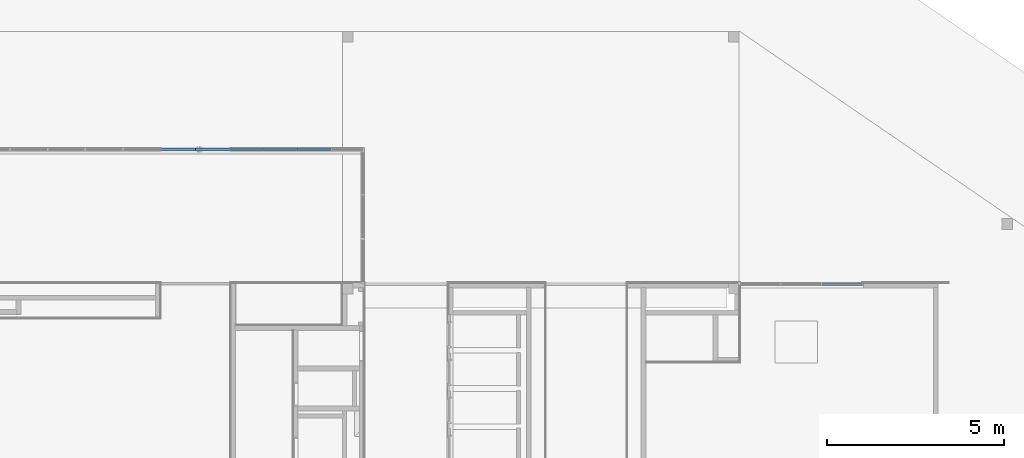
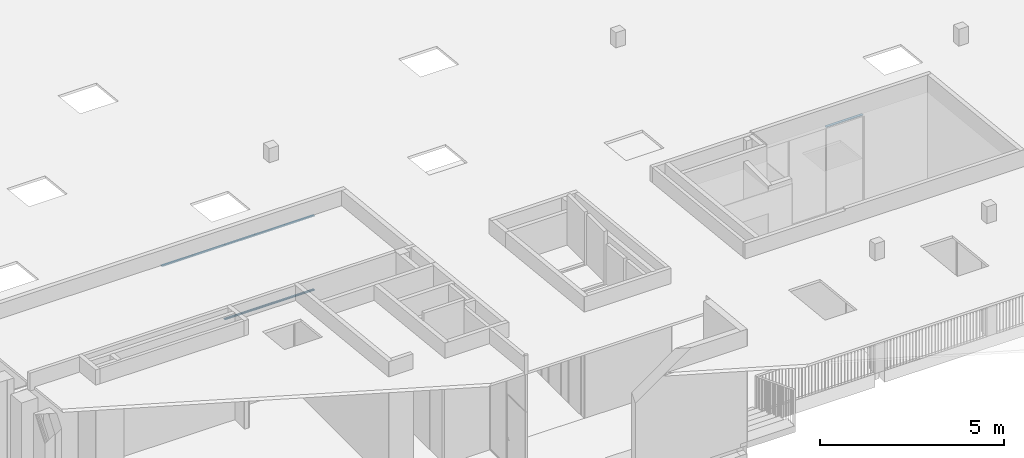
# One storey, part 6 of 43: 9 members, 2 elements without a shape of their own.
"""IFC2X3 building model written with IfcOpenShell, lengths in millimetres."""

from ifc_helpers import new_model, entity, si_unit, converted_unit, derived_unit, money_unit, direction, frame, origin_with_axes, place, context, subcontext, project, spatial, faceted_brep, source, transform, mapped, material, material_list, type_object, element, aggregate, save


model = new_model("IFC2X3")

# Units and contexts
model_context = context("Model", 3, precision=0.01, world=origin_with_axes(), true_north=direction((0.0, 1.0)))
body_context = subcontext(model_context, "Body", "Model", "MODEL_VIEW")
ifc_project = project(units=[si_unit("LENGTHUNIT", "METRE", prefix="MILLI"), si_unit("AREAUNIT", "SQUARE_METRE"), si_unit("VOLUMEUNIT", "CUBIC_METRE"), converted_unit("PLANEANGLEUNIT", "DEGREE", entity("IfcPlaneAngleMeasure", 0.0174532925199), si_unit("PLANEANGLEUNIT", "RADIAN"), dimensions=[0, 0, 0, 0, 0, 0, 0]), si_unit("SOLIDANGLEUNIT", "STERADIAN"), money_unit("EUR"), converted_unit("TIMEUNIT", "Year", entity("IfcTimeMeasure", 31556926.0), si_unit("TIMEUNIT", "SECOND"), dimensions=[0, 0, 1, 0, 0, 0, 0]), si_unit("MASSUNIT", "GRAM", prefix="KILO"), si_unit("THERMODYNAMICTEMPERATUREUNIT", "DEGREE_CELSIUS"), si_unit("LUMINOUSINTENSITYUNIT", "LUMEN"), si_unit("ENERGYUNIT", "JOULE", prefix="MEGA"), derived_unit("THERMALCONDUCTANCEUNIT", [(si_unit("POWERUNIT", "WATT"), 1), (si_unit("LENGTHUNIT", "METRE"), -1), (si_unit("THERMODYNAMICTEMPERATUREUNIT", "KELVIN"), -1)]), derived_unit("SPECIFICHEATCAPACITYUNIT", [(si_unit("ENERGYUNIT", "JOULE"), 1), (si_unit("MASSUNIT", "GRAM", prefix="KILO"), -1), (si_unit("THERMODYNAMICTEMPERATUREUNIT", "KELVIN"), -1)]), derived_unit("MASSDENSITYUNIT", [(si_unit("MASSUNIT", "GRAM", prefix="KILO"), 1), (si_unit("VOLUMEUNIT", "CUBIC_METRE"), -1)])], contexts=[model_context])

# Site, building, storey
site_placement = place(None, origin_with_axes())
site = spatial("IfcSite", under=ifc_project, at=site_placement, Name="L.Koidula tn 11b", CompositionType="ELEMENT")
building_placement = place(site_placement, origin_with_axes())
building = spatial("IfcBuilding", under=site, at=building_placement, Name="Rakvere Riigigümnaasium", CompositionType="ELEMENT")
storey_placement = place(building_placement, frame((0.0, 0.0, 6665.0), z_axis=(0.0, 0.0, 1.0), x_axis=(1.0, 0.0, 0.0)))
storey = spatial("IfcBuildingStorey", under=building, at=storey_placement, Name="3.korrus +6,66", CompositionType="ELEMENT", Elevation=6665.0)

# Curtain wall, members
curtain_wall_type = type_object("IfcCurtainWallType", Name="Curtain Wall Type", PredefinedType="NOTDEFINED")
curtain_wall_1_placement = place(storey_placement, frame((45254.9999955, 28178.4554945, 0.0), z_axis=(0.0, 0.0, 1.0), x_axis=(1.0, 0.0, 0.0)))
curtain_wall_1 = element("IfcCurtainWall", 1, at=curtain_wall_1_placement, inside=storey, type_object=curtain_wall_type, Name="SKLF-26")
ifc_material_1 = material(Name="Klaasvill")
ifc_material_2 = material(Name="Teras RAL7012")
ifc_material_list = material_list([ifc_material_1, ifc_material_2])
member_type = type_object("IfcMemberType", Name="Boundary Frame 30 x 42", PredefinedType="MULLION")
shared_shape_1 = source(origin_with_axes(), body_context, "Body", "Brep", [
    faceted_brep([(7.49999990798, 15.000000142, 0.0), (13.8499999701, 15.000000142, 0.0), (13.8499999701, 15.000000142, 942.0), (7.49999990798, 15.000000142, 942.0), (7.49999990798, 29.0161444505, 0.0), (13.8499999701, 29.0161444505, 0.0), (13.8499999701, 29.0161444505, 942.0), (7.49999990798, 29.0161444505, 942.0)], [[[0, 1, 2, 3]], [[0, 4, 5, 1]], [[1, 5, 6, 2]], [[3, 2, 6, 7]], [[4, 0, 3, 7]], [[5, 4, 7, 6]]]),
    faceted_brep([(24.987414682, 29.0161444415, 0.0), (25.004489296, 27.0307503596, 0.0), (25.004489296, 27.0307503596, 942.0), (24.987414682, 29.0161444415, 942.0), (28.5126239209, 29.0161444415, 0.0), (28.7655837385, 28.0385325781, 0.0), (28.4955493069, 27.0307503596, 0.0), (27.75780152, 26.2930025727, 0.0), (26.7500193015, 26.0229681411, 0.0), (25.742237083, 26.2930025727, 0.0), (25.742237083, 26.2930025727, 942.0), (26.7500193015, 26.0229681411, 942.0), (27.75780152, 26.2930025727, 942.0), (28.4955493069, 27.0307503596, 942.0), (28.7655837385, 28.0385325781, 942.0), (28.5126239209, 29.0161444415, 942.0)], [[[0, 1, 2, 3]], [[0, 4, 5, 6, 7, 8, 9, 1]], [[1, 9, 10, 2]], [[3, 2, 10, 11, 12, 13, 14, 15]], [[4, 0, 3, 15]], [[5, 4, 15, 14]], [[6, 5, 14, 13]], [[7, 6, 13, 12]], [[8, 7, 12, 11]], [[9, 8, 11, 10]]]),
    faceted_brep([(7.49999990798, -24.9999997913, 0.0), (7.49999990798, -39.0161445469, 0.0), (7.49999990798, -39.0161445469, 942.0), (7.49999990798, -24.9999997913, 942.0), (13.8499999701, -24.9999997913, 0.0), (13.8499999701, -39.0161445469, 0.0), (13.8499999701, -39.0161445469, 942.0), (13.8499999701, -24.9999997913, 942.0)], [[[0, 1, 2, 3]], [[0, 4, 5, 1]], [[1, 5, 6, 2]], [[3, 2, 6, 7]], [[4, 0, 3, 7]], [[5, 4, 7, 6]]]),
    faceted_brep([(25.004489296, -37.0307503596, 0.0), (24.987414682, -39.0161444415, 0.0), (24.987414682, -39.0161444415, 942.0), (25.004489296, -37.0307503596, 942.0), (25.742237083, -36.2930025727, 0.0), (26.7500193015, -36.0229681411, 0.0), (27.75780152, -36.2930025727, 0.0), (28.4955493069, -37.0307503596, 0.0), (28.7655837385, -38.0385325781, 0.0), (28.5126239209, -39.0161444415, 0.0), (28.5126239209, -39.0161444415, 942.0), (28.7655837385, -38.0385325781, 942.0), (28.4955493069, -37.0307503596, 942.0), (27.75780152, -36.2930025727, 942.0), (26.7500193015, -36.0229681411, 942.0), (25.742237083, -36.2930025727, 942.0)], [[[0, 1, 2, 3]], [[0, 4, 5, 6, 7, 8, 9, 1]], [[1, 9, 10, 2]], [[3, 2, 10, 11, 12, 13, 14, 15]], [[4, 0, 3, 15]], [[5, 4, 15, 14]], [[6, 5, 14, 13]], [[7, 6, 13, 12]], [[8, 7, 12, 11]], [[9, 8, 11, 10]]]),
    faceted_brep([(0.0, -22.0000000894, 0.0), (29.5999996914, -22.0000000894, 0.0), (29.5999996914, -22.0000000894, 942.0), (0.0, -22.0000000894, 942.0), (0.0, 12.0000000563, 0.0), (29.5999996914, 12.0000000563, 0.0), (1.9999999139, 10.0000001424, 0.0), (1.9999999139, -20.0000001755, 0.0), (18.7999996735, -20.0000001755, 0.0), (18.7999996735, 10.0000001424, 0.0), (29.5999996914, 12.0000000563, 942.0), (0.0, 12.0000000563, 942.0), (1.9999999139, 10.0000001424, 942.0), (18.7999996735, 10.0000001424, 942.0), (18.7999996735, -20.0000001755, 942.0), (1.9999999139, -20.0000001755, 942.0)], [[[0, 1, 2, 3]], [[0, 4, 5, 1], [6, 7, 8, 9]], [[1, 5, 10, 2]], [[3, 2, 10, 11], [12, 13, 14, 15]], [[4, 0, 3, 11]], [[5, 4, 11, 10]], [[7, 6, 12, 15]], [[8, 7, 15, 14]], [[9, 8, 14, 13]], [[6, 9, 13, 12]]]),
    faceted_brep([(0.0, 12.0, 0.0), (29.5999996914, 12.0000000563, 0.0), (29.5999996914, 12.0000000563, 942.0), (0.0, 12.0, 942.0), (0.0, 32.0, 0.0), (30.0000193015, 32.0, 0.0), (30.0000193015, 29.0161444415, 0.0), (28.5126239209, 29.0161444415, 0.0), (24.987414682, 29.0161444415, 0.0), (13.8499999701, 29.0161444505, 0.0), (7.49999999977, 29.0161444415, 0.0), (7.49999999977, 15.0, 0.0), (13.8499999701, 15.000000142, 0.0), (30.0000193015, 15.0, 0.0), (30.0000193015, 12.0, 0.0), (30.0000193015, 12.0, 942.0), (30.0000193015, 15.0, 942.0), (13.8499999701, 15.000000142, 942.0), (7.49999999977, 15.0, 942.0), (7.49999999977, 29.0161444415, 942.0), (13.8499999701, 29.0161444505, 942.0), (24.987414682, 29.0161444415, 942.0), (28.5126239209, 29.0161444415, 942.0), (30.0000193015, 29.0161444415, 942.0), (30.0000193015, 32.0, 942.0), (0.0, 32.0, 942.0)], [[[0, 1, 2, 3]], [[0, 4, 5, 6, 7, 8, 9, 10, 11, 12, 13, 14, 1]], [[1, 14, 15, 2]], [[3, 2, 15, 16, 17, 18, 19, 20, 21, 22, 23, 24, 25]], [[4, 0, 3, 25]], [[5, 4, 25, 24]], [[6, 5, 24, 23]], [[7, 6, 23, 22]], [[8, 7, 22, 21]], [[9, 8, 21, 20]], [[10, 9, 20, 19]], [[11, 10, 19, 18]], [[12, 11, 18, 17]], [[13, 12, 17, 16]], [[14, 13, 16, 15]]]),
    faceted_brep([(0.0, -22.0, 0.0), (0.0, -42.0, 0.0), (0.0, -42.0, 942.0), (0.0, -22.0, 942.0), (29.5999996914, -22.0000000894, 0.0), (30.0000193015, -22.0, 0.0), (30.0000193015, -25.0, 0.0), (13.8499999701, -24.9999997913, 0.0), (7.49999999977, -25.0, 0.0), (7.49999999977, -39.0161444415, 0.0), (13.8499999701, -39.0161445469, 0.0), (24.987414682, -39.0161444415, 0.0), (28.5126239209, -39.0161444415, 0.0), (30.0000193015, -39.0161444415, 0.0), (30.0000193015, -42.0, 0.0), (30.0000193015, -42.0, 942.0), (30.0000193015, -39.0161444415, 942.0), (28.5126239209, -39.0161444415, 942.0), (24.987414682, -39.0161444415, 942.0), (13.8499999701, -39.0161445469, 942.0), (7.49999999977, -39.0161444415, 942.0), (7.49999999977, -25.0, 942.0), (13.8499999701, -24.9999997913, 942.0), (30.0000193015, -25.0, 942.0), (30.0000193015, -22.0, 942.0), (29.5999996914, -22.0000000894, 942.0)], [[[0, 1, 2, 3]], [[0, 4, 5, 6, 7, 8, 9, 10, 11, 12, 13, 14, 1]], [[1, 14, 15, 2]], [[3, 2, 15, 16, 17, 18, 19, 20, 21, 22, 23, 24, 25]], [[4, 0, 3, 25]], [[5, 4, 25, 24]], [[6, 5, 24, 23]], [[7, 6, 23, 22]], [[8, 7, 22, 21]], [[9, 8, 21, 20]], [[10, 9, 20, 19]], [[11, 10, 19, 18]], [[12, 11, 18, 17]], [[13, 12, 17, 16]], [[14, 13, 16, 15]]]),
])
member_1_placement = place(curtain_wall_1_placement, frame((1413.0, 0.0, 0.0), z_axis=(-1.0, 0.0, 0.0), x_axis=(0.0, 0.0, 1.0)))
member_1 = element("IfcMember", 2, at=member_1_placement, type_object=member_type, material=ifc_material_list, Name="SKLF-12-raam", ObjectType="MULLION", context=body_context, shape_type="MappedRepresentation", body=[
    mapped(shared_shape_1, transform((0.0, 0.0, 0.0))),
])
member_2_placement = place(curtain_wall_1_placement, frame((471.0, 0.0, 0.0), z_axis=(-1.0, 0.0, 0.0), x_axis=(0.0, 0.0, 1.0)))
member_2 = element("IfcMember", 3, at=member_2_placement, type_object=member_type, material=ifc_material_list, Name="SKLF-13-raam", ObjectType="MULLION", context=body_context, shape_type="MappedRepresentation", body=[
    mapped(shared_shape_1, transform((0.0, 0.0, 0.0))),
])
member_3_placement = place(curtain_wall_1_placement, frame((-471.0, 0.0, 0.0), z_axis=(-1.0, 0.0, 0.0), x_axis=(0.0, 0.0, 1.0)))
member_3 = element("IfcMember", 4, at=member_3_placement, type_object=member_type, material=ifc_material_list, Name="SKLF-14-raam", ObjectType="MULLION", context=body_context, shape_type="MappedRepresentation", body=[
    mapped(shared_shape_1, transform((0.0, 0.0, 0.0))),
])
member_4_placement = place(curtain_wall_1_placement, frame((471.0, 0.0, 2489.99984217), z_axis=(1.0, 0.0, 0.0), x_axis=(0.0, 0.0, -1.0)))
member_4 = element("IfcMember", 5, at=member_4_placement, type_object=member_type, material=ifc_material_list, Name="SKLF-34-raam", ObjectType="MULLION", context=body_context, shape_type="MappedRepresentation", body=[
    mapped(shared_shape_1, transform((0.0, 0.0, 0.0))),
])
member_5_placement = place(curtain_wall_1_placement, frame((-471.0, 0.0, 2489.99984217), z_axis=(1.0, 0.0, 0.0), x_axis=(0.0, 0.0, -1.0)))
member_5 = element("IfcMember", 6, at=member_5_placement, type_object=member_type, material=ifc_material_list, Name="SKLF-33-raam", ObjectType="MULLION", context=body_context, shape_type="MappedRepresentation", body=[
    mapped(shared_shape_1, transform((0.0, 0.0, 0.0))),
])
member_6_placement = place(curtain_wall_1_placement, frame((-1413.0, 0.0, 2489.99984217), z_axis=(1.0, 0.0, 0.0), x_axis=(0.0, 0.0, -1.0)))
member_6 = element("IfcMember", 7, at=member_6_placement, type_object=member_type, material=ifc_material_list, Name="SKLF-32-raam", ObjectType="MULLION", context=body_context, shape_type="MappedRepresentation", body=[
    mapped(shared_shape_1, transform((0.0, 0.0, 0.0))),
])
shared_shape_2 = source(origin_with_axes(), body_context, "Body", "Brep", [
    faceted_brep([(7.49999990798, 15.000000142, 0.0), (13.8499999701, 15.000000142, 0.0), (13.8499999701, 15.000000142, 988.0), (7.49999990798, 15.000000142, 988.0), (7.49999990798, 29.0161444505, 0.0), (13.8499999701, 29.0161444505, 0.0), (13.8499999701, 29.0161444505, 988.0), (7.49999990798, 29.0161444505, 988.0)], [[[0, 1, 2, 3]], [[0, 4, 5, 1]], [[1, 5, 6, 2]], [[3, 2, 6, 7]], [[4, 0, 3, 7]], [[5, 4, 7, 6]]]),
    faceted_brep([(24.987414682, 29.0161444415, 0.0), (25.004489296, 27.0307503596, 0.0), (25.004489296, 27.0307503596, 988.0), (24.987414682, 29.0161444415, 988.0), (28.5126239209, 29.0161444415, 0.0), (28.7655837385, 28.0385325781, 0.0), (28.4955493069, 27.0307503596, 0.0), (27.75780152, 26.2930025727, 0.0), (26.7500193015, 26.0229681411, 0.0), (25.742237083, 26.2930025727, 0.0), (25.742237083, 26.2930025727, 988.0), (26.7500193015, 26.0229681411, 988.0), (27.75780152, 26.2930025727, 988.0), (28.4955493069, 27.0307503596, 988.0), (28.7655837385, 28.0385325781, 988.0), (28.5126239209, 29.0161444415, 988.0)], [[[0, 1, 2, 3]], [[0, 4, 5, 6, 7, 8, 9, 1]], [[1, 9, 10, 2]], [[3, 2, 10, 11, 12, 13, 14, 15]], [[4, 0, 3, 15]], [[5, 4, 15, 14]], [[6, 5, 14, 13]], [[7, 6, 13, 12]], [[8, 7, 12, 11]], [[9, 8, 11, 10]]]),
    faceted_brep([(7.49999990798, -24.9999997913, 0.0), (7.49999990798, -39.0161445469, 0.0), (7.49999990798, -39.0161445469, 988.0), (7.49999990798, -24.9999997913, 988.0), (13.8499999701, -24.9999997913, 0.0), (13.8499999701, -39.0161445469, 0.0), (13.8499999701, -39.0161445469, 988.0), (13.8499999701, -24.9999997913, 988.0)], [[[0, 1, 2, 3]], [[0, 4, 5, 1]], [[1, 5, 6, 2]], [[3, 2, 6, 7]], [[4, 0, 3, 7]], [[5, 4, 7, 6]]]),
    faceted_brep([(25.004489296, -37.0307503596, 0.0), (24.987414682, -39.0161444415, 0.0), (24.987414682, -39.0161444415, 988.0), (25.004489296, -37.0307503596, 988.0), (25.742237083, -36.2930025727, 0.0), (26.7500193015, -36.0229681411, 0.0), (27.75780152, -36.2930025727, 0.0), (28.4955493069, -37.0307503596, 0.0), (28.7655837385, -38.0385325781, 0.0), (28.5126239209, -39.0161444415, 0.0), (28.5126239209, -39.0161444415, 988.0), (28.7655837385, -38.0385325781, 988.0), (28.4955493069, -37.0307503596, 988.0), (27.75780152, -36.2930025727, 988.0), (26.7500193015, -36.0229681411, 988.0), (25.742237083, -36.2930025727, 988.0)], [[[0, 1, 2, 3]], [[0, 4, 5, 6, 7, 8, 9, 1]], [[1, 9, 10, 2]], [[3, 2, 10, 11, 12, 13, 14, 15]], [[4, 0, 3, 15]], [[5, 4, 15, 14]], [[6, 5, 14, 13]], [[7, 6, 13, 12]], [[8, 7, 12, 11]], [[9, 8, 11, 10]]]),
    faceted_brep([(0.0, -22.0000000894, 0.0), (29.5999996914, -22.0000000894, 0.0), (29.5999996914, -22.0000000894, 988.0), (0.0, -22.0000000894, 988.0), (0.0, 12.0000000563, 0.0), (29.5999996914, 12.0000000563, 0.0), (1.9999999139, 10.0000001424, 0.0), (1.9999999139, -20.0000001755, 0.0), (18.7999996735, -20.0000001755, 0.0), (18.7999996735, 10.0000001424, 0.0), (29.5999996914, 12.0000000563, 988.0), (0.0, 12.0000000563, 988.0), (1.9999999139, 10.0000001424, 988.0), (18.7999996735, 10.0000001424, 988.0), (18.7999996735, -20.0000001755, 988.0), (1.9999999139, -20.0000001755, 988.0)], [[[0, 1, 2, 3]], [[0, 4, 5, 1], [6, 7, 8, 9]], [[1, 5, 10, 2]], [[3, 2, 10, 11], [12, 13, 14, 15]], [[4, 0, 3, 11]], [[5, 4, 11, 10]], [[7, 6, 12, 15]], [[8, 7, 15, 14]], [[9, 8, 14, 13]], [[6, 9, 13, 12]]]),
    faceted_brep([(0.0, 12.0, 0.0), (29.5999996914, 12.0000000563, 0.0), (29.5999996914, 12.0000000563, 988.0), (0.0, 12.0, 988.0), (0.0, 32.0, 0.0), (30.0000193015, 32.0, 0.0), (30.0000193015, 29.0161444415, 0.0), (28.5126239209, 29.0161444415, 0.0), (24.987414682, 29.0161444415, 0.0), (13.8499999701, 29.0161444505, 0.0), (7.49999999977, 29.0161444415, 0.0), (7.49999999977, 15.0, 0.0), (13.8499999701, 15.000000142, 0.0), (30.0000193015, 15.0, 0.0), (30.0000193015, 12.0, 0.0), (30.0000193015, 12.0, 988.0), (30.0000193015, 15.0, 988.0), (13.8499999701, 15.000000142, 988.0), (7.49999999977, 15.0, 988.0), (7.49999999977, 29.0161444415, 988.0), (13.8499999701, 29.0161444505, 988.0), (24.987414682, 29.0161444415, 988.0), (28.5126239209, 29.0161444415, 988.0), (30.0000193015, 29.0161444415, 988.0), (30.0000193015, 32.0, 988.0), (0.0, 32.0, 988.0)], [[[0, 1, 2, 3]], [[0, 4, 5, 6, 7, 8, 9, 10, 11, 12, 13, 14, 1]], [[1, 14, 15, 2]], [[3, 2, 15, 16, 17, 18, 19, 20, 21, 22, 23, 24, 25]], [[4, 0, 3, 25]], [[5, 4, 25, 24]], [[6, 5, 24, 23]], [[7, 6, 23, 22]], [[8, 7, 22, 21]], [[9, 8, 21, 20]], [[10, 9, 20, 19]], [[11, 10, 19, 18]], [[12, 11, 18, 17]], [[13, 12, 17, 16]], [[14, 13, 16, 15]]]),
    faceted_brep([(0.0, -22.0, 0.0), (0.0, -42.0, 0.0), (0.0, -42.0, 988.0), (0.0, -22.0, 988.0), (29.5999996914, -22.0000000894, 0.0), (30.0000193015, -22.0, 0.0), (30.0000193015, -25.0, 0.0), (13.8499999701, -24.9999997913, 0.0), (7.49999999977, -25.0, 0.0), (7.49999999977, -39.0161444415, 0.0), (13.8499999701, -39.0161445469, 0.0), (24.987414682, -39.0161444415, 0.0), (28.5126239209, -39.0161444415, 0.0), (30.0000193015, -39.0161444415, 0.0), (30.0000193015, -42.0, 0.0), (30.0000193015, -42.0, 988.0), (30.0000193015, -39.0161444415, 988.0), (28.5126239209, -39.0161444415, 988.0), (24.987414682, -39.0161444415, 988.0), (13.8499999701, -39.0161445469, 988.0), (7.49999999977, -39.0161444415, 988.0), (7.49999999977, -25.0, 988.0), (13.8499999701, -24.9999997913, 988.0), (30.0000193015, -25.0, 988.0), (30.0000193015, -22.0, 988.0), (29.5999996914, -22.0000000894, 988.0)], [[[0, 1, 2, 3]], [[0, 4, 5, 6, 7, 8, 9, 10, 11, 12, 13, 14, 1]], [[1, 14, 15, 2]], [[3, 2, 15, 16, 17, 18, 19, 20, 21, 22, 23, 24, 25]], [[4, 0, 3, 25]], [[5, 4, 25, 24]], [[6, 5, 24, 23]], [[7, 6, 23, 22]], [[8, 7, 22, 21]], [[9, 8, 21, 20]], [[10, 9, 20, 19]], [[11, 10, 19, 18]], [[12, 11, 18, 17]], [[13, 12, 17, 16]], [[14, 13, 16, 15]]]),
])
member_7_placement = place(curtain_wall_1_placement, frame((-2401.0, 0.0, 2489.99984217), z_axis=(1.0, 0.0, 0.0), x_axis=(0.0, 0.0, -1.0)))
member_7 = element("IfcMember", 8, at=member_7_placement, type_object=member_type, material=ifc_material_list, Name="SKLF-31-raam", ObjectType="MULLION", context=body_context, shape_type="MappedRepresentation", body=[
    mapped(shared_shape_2, transform((0.0, 0.0, 0.0))),
])
member_8_placement = place(curtain_wall_1_placement, frame((-3389.0, 0.0, 2489.99984217), z_axis=(1.0, 0.0, 0.0), x_axis=(0.0, 0.0, -1.0)))
member_8 = element("IfcMember", 9, at=member_8_placement, type_object=member_type, material=ifc_material_list, Name="SKLF-30-raam", ObjectType="MULLION", context=body_context, shape_type="MappedRepresentation", body=[
    mapped(shared_shape_2, transform((0.0, 0.0, 0.0))),
])
aggregate(curtain_wall_1, [member_1, member_2, member_3, member_4, member_5, member_6, member_7, member_8])

# Curtain wall, member
curtain_wall_2_placement = place(storey_placement, frame((61105.020931, 24378.4555472, 0.0), z_axis=(0.0, 0.0, 1.0), x_axis=(1.0, 0.0, 0.0)))
curtain_wall_2 = element("IfcCurtainWall", 10, at=curtain_wall_2_placement, inside=storey, type_object=curtain_wall_type, Name="SKLF-28")
shared_shape_3 = source(origin_with_axes(), body_context, "Body", "Brep", [
    faceted_brep([(-13.8499999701, 15.000000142, 13.8499999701), (-7.49999990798, 15.000000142, 7.49999990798), (-7.49999990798, 15.000000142, 1170.0), (-13.8499999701, 15.000000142, 1170.0), (-13.8499999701, 29.0161444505, 13.8499999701), (-7.49999990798, 29.0161444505, 7.49999990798), (-7.49999990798, 29.0161444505, 1170.0), (-13.8499999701, 29.0161444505, 1170.0)], [[[0, 1, 2, 3]], [[1, 0, 4, 5]], [[1, 5, 6, 2]], [[2, 6, 7, 3]], [[4, 0, 3, 7]], [[5, 4, 7, 6]]]),
    faceted_brep([(-25.004489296, 27.0307503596, 25.004489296), (-24.987414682, 29.0161444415, 24.987414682), (-24.987414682, 29.0161444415, 1170.0), (-25.004489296, 27.0307503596, 1170.0), (-25.742237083, 26.2930025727, 25.742237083), (-26.7500193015, 26.0229681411, 26.7500193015), (-27.75780152, 26.2930025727, 27.75780152), (-28.4955493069, 27.0307503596, 28.4955493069), (-28.7655837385, 28.0385325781, 28.7655837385), (-28.5126239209, 29.0161444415, 28.5126239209), (-28.5126239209, 29.0161444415, 1170.0), (-28.7655837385, 28.0385325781, 1170.0), (-28.4955493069, 27.0307503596, 1170.0), (-27.75780152, 26.2930025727, 1170.0), (-26.7500193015, 26.0229681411, 1170.0), (-25.742237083, 26.2930025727, 1170.0)], [[[0, 1, 2, 3]], [[1, 0, 4, 5, 6, 7, 8, 9]], [[1, 9, 10, 2]], [[2, 10, 11, 12, 13, 14, 15, 3]], [[4, 0, 3, 15]], [[5, 4, 15, 14]], [[6, 5, 14, 13]], [[7, 6, 13, 12]], [[8, 7, 12, 11]], [[9, 8, 11, 10]]]),
    faceted_brep([(-7.49999990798, -39.0161445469, 7.49999990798), (-7.49999990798, -24.9999997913, 7.49999990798), (-7.49999990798, -24.9999997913, 1170.0), (-7.49999990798, -39.0161445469, 1170.0), (-13.8499999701, -39.0161445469, 13.8499999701), (-13.8499999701, -24.9999997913, 13.8499999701), (-13.8499999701, -24.9999997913, 1170.0), (-13.8499999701, -39.0161445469, 1170.0)], [[[0, 1, 2, 3]], [[1, 0, 4, 5]], [[1, 5, 6, 2]], [[2, 6, 7, 3]], [[4, 0, 3, 7]], [[5, 4, 7, 6]]]),
    faceted_brep([(-24.987414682, -39.0161444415, 24.987414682), (-25.004489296, -37.0307503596, 25.004489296), (-25.004489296, -37.0307503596, 1170.0), (-24.987414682, -39.0161444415, 1170.0), (-28.5126239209, -39.0161444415, 28.5126239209), (-28.7655837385, -38.0385325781, 28.7655837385), (-28.4955493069, -37.0307503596, 28.4955493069), (-27.75780152, -36.2930025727, 27.75780152), (-26.7500193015, -36.0229681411, 26.7500193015), (-25.742237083, -36.2930025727, 25.742237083), (-25.742237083, -36.2930025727, 1170.0), (-26.7500193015, -36.0229681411, 1170.0), (-27.75780152, -36.2930025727, 1170.0), (-28.4955493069, -37.0307503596, 1170.0), (-28.7655837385, -38.0385325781, 1170.0), (-28.5126239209, -39.0161444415, 1170.0)], [[[0, 1, 2, 3]], [[1, 0, 4, 5, 6, 7, 8, 9]], [[1, 9, 10, 2]], [[2, 10, 11, 12, 13, 14, 15, 3]], [[4, 0, 3, 15]], [[5, 4, 15, 14]], [[6, 5, 14, 13]], [[7, 6, 13, 12]], [[8, 7, 12, 11]], [[9, 8, 11, 10]]]),
    faceted_brep([(-29.5999996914, -22.0000000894, 29.5999996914), (0.0, -22.0000000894, 0.0), (0.0, -22.0000000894, 1170.0), (-29.5999996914, -22.0000000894, 1170.0), (-29.5999996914, 12.0000000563, 29.5999996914), (0.0, 12.0000000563, 0.0), (-1.9999999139, 10.0000001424, 1.9999999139), (-18.7999996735, 10.0000001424, 18.7999996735), (-18.7999996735, -20.0000001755, 18.7999996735), (-1.9999999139, -20.0000001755, 1.9999999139), (0.0, 12.0000000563, 1170.0), (-29.5999996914, 12.0000000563, 1170.0), (-1.9999999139, 10.0000001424, 1170.0), (-1.9999999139, -20.0000001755, 1170.0), (-18.7999996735, -20.0000001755, 1170.0), (-18.7999996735, 10.0000001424, 1170.0)], [[[0, 1, 2, 3]], [[1, 0, 4, 5], [6, 7, 8, 9]], [[1, 5, 10, 2]], [[2, 10, 11, 3], [12, 13, 14, 15]], [[4, 0, 3, 11]], [[5, 4, 11, 10]], [[7, 6, 12, 15]], [[8, 7, 15, 14]], [[9, 8, 14, 13]], [[6, 9, 13, 12]]]),
    faceted_brep([(-29.5999996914, 12.0000000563, 29.5999996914), (0.0, 12.0, 0.0), (0.0, 12.0, 1170.0), (-29.5999996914, 12.0000000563, 1170.0), (-30.0000193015, 12.0, 30.0000193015), (-30.0000193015, 15.0, 30.0000193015), (-13.8499999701, 15.000000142, 13.8499999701), (-7.49999999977, 15.0, 7.49999999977), (-7.49999999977, 29.0161444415, 7.49999999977), (-13.8499999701, 29.0161444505, 13.8499999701), (-24.987414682, 29.0161444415, 24.987414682), (-28.5126239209, 29.0161444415, 28.5126239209), (-30.0000193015, 29.0161444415, 30.0000193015), (-30.0000193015, 32.0, 30.0000193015), (0.0, 32.0, 0.0), (0.0, 32.0, 1170.0), (-30.0000193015, 32.0, 1170.0), (-30.0000193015, 29.0161444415, 1170.0), (-28.5126239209, 29.0161444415, 1170.0), (-24.987414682, 29.0161444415, 1170.0), (-13.8499999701, 29.0161444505, 1170.0), (-7.49999999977, 29.0161444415, 1170.0), (-7.49999999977, 15.0, 1170.0), (-13.8499999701, 15.000000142, 1170.0), (-30.0000193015, 15.0, 1170.0), (-30.0000193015, 12.0, 1170.0)], [[[0, 1, 2, 3]], [[1, 0, 4, 5, 6, 7, 8, 9, 10, 11, 12, 13, 14]], [[1, 14, 15, 2]], [[2, 15, 16, 17, 18, 19, 20, 21, 22, 23, 24, 25, 3]], [[4, 0, 3, 25]], [[5, 4, 25, 24]], [[6, 5, 24, 23]], [[7, 6, 23, 22]], [[8, 7, 22, 21]], [[9, 8, 21, 20]], [[10, 9, 20, 19]], [[11, 10, 19, 18]], [[12, 11, 18, 17]], [[13, 12, 17, 16]], [[14, 13, 16, 15]]]),
    faceted_brep([(0.0, -42.0, 0.0), (0.0, -22.0, 0.0), (0.0, -22.0, 1170.0), (0.0, -42.0, 1170.0), (-30.0000193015, -42.0, 30.0000193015), (-30.0000193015, -39.0161444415, 30.0000193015), (-28.5126239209, -39.0161444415, 28.5126239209), (-24.987414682, -39.0161444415, 24.987414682), (-13.8499999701, -39.0161445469, 13.8499999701), (-7.49999999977, -39.0161444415, 7.49999999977), (-7.49999999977, -25.0, 7.49999999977), (-13.8499999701, -24.9999997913, 13.8499999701), (-30.0000193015, -25.0, 30.0000193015), (-30.0000193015, -22.0, 30.0000193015), (-29.5999996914, -22.0000000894, 29.5999996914), (-29.5999996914, -22.0000000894, 1170.0), (-30.0000193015, -22.0, 1170.0), (-30.0000193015, -25.0, 1170.0), (-13.8499999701, -24.9999997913, 1170.0), (-7.49999999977, -25.0, 1170.0), (-7.49999999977, -39.0161444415, 1170.0), (-13.8499999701, -39.0161445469, 1170.0), (-24.987414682, -39.0161444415, 1170.0), (-28.5126239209, -39.0161444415, 1170.0), (-30.0000193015, -39.0161444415, 1170.0), (-30.0000193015, -42.0, 1170.0)], [[[0, 1, 2, 3]], [[1, 0, 4, 5, 6, 7, 8, 9, 10, 11, 12, 13, 14]], [[1, 14, 15, 2]], [[2, 15, 16, 17, 18, 19, 20, 21, 22, 23, 24, 25, 3]], [[4, 0, 3, 25]], [[5, 4, 25, 24]], [[6, 5, 24, 23]], [[7, 6, 23, 22]], [[8, 7, 22, 21]], [[9, 8, 21, 20]], [[10, 9, 20, 19]], [[11, 10, 19, 18]], [[12, 11, 18, 17]], [[13, 12, 17, 16]], [[14, 13, 16, 15]]]),
])
member_9_placement = place(curtain_wall_2_placement, frame((585.0, 0.0, 2880.00001207), z_axis=(-1.0, 0.0, 0.0), x_axis=(0.0, 0.0, 1.0)))
member_9 = element("IfcMember", 11, at=member_9_placement, type_object=member_type, material=ifc_material_list, Name="SKLF-78-raam", ObjectType="MULLION", context=body_context, shape_type="MappedRepresentation", body=[
    mapped(shared_shape_3, transform((0.0, 0.0, 0.0))),
])
aggregate(curtain_wall_2, [member_9])

save(model, "model.ifc")
